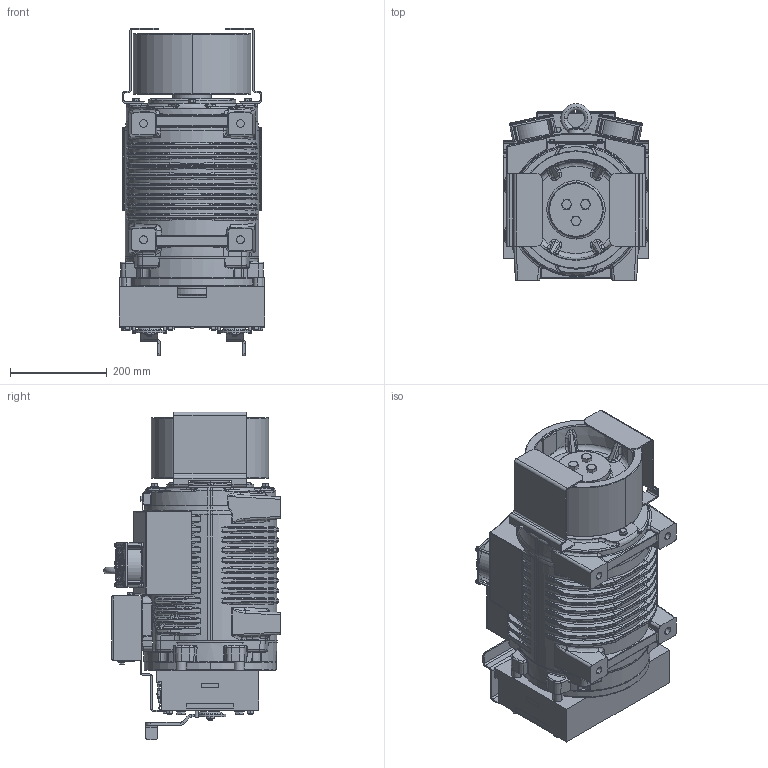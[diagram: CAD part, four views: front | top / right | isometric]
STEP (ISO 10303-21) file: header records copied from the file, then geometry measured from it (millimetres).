
FILE_DESCRIPTION((''),'2;1');
FILE_NAME('00358068_ASM','2020-01-15T',('furlanis'),('Sicor spa'),'CREO PARAMETRIC BY PTC INC, 2017170','CREO PARAMETRIC BY PTC INC, 2017170','');
FILE_SCHEMA(('CONFIG_CONTROL_DESIGN'));
Products named in the file (4): SG38; 00164126; 00280791; 00358068_ASM
Assembly tree (4 placements, depth 2):
  00358068_ASM
    SG38
    00164126  x2
    00280791
Bounding box: 300.4 x 365 x 676.52 mm (x, y, z)
Volume: 3029839.4 mm3; surface area: 2270256.9 mm2
Topology: 3 solids, 394 shells, 4372 faces, 14181 edges, 9843 vertices
Faces by surface type: plane 1617, cylinder 1104, bspline 799, torus 505, cone 305, sphere 40, revolution 2
Entity records: 239392 total; most frequent: CARTESIAN_POINT 128845, ORIENTED_EDGE 22009, DIRECTION 20395, EDGE_CURVE 13979, VERTEX_POINT 9747, AXIS2_PLACEMENT_3D 6923, VECTOR 6547, LINE 6547
